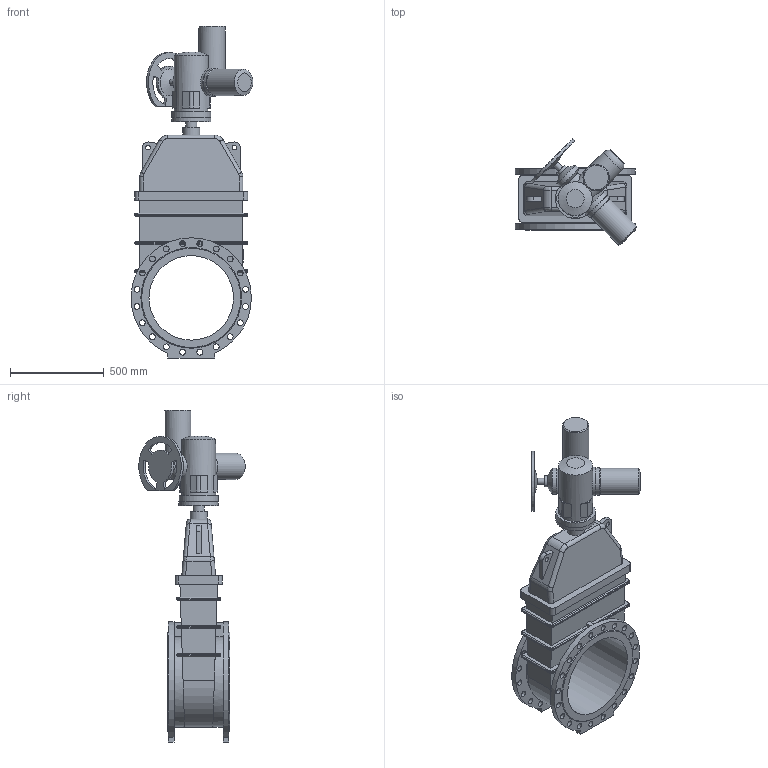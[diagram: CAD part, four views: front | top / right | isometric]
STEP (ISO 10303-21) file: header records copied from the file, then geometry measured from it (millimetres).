
FILE_DESCRIPTION(('STEP AP203'), '1');
FILE_NAME('青溻桄赅 47GVA DN450 PN16+MT903.A45', '', ('UNSPECIFIED'), ('UNSPECIFIED'), 'ASCON STEP Converter 1.6', 'ASCON Math Kernel', '');
FILE_SCHEMA(('CONFIG_CONTROL_DESIGN'));
Length unit declared in the file: millimetre
Bounding box: 647.76 x 565.84 x 1767 mm (x, y, z)
Volume: 108263435.5 mm3; surface area: 3825481.8 mm2
Topology: 2 solids, 3 shells, 376 faces, 934 edges, 593 vertices
Faces by surface type: cylinder 171, plane 157, bspline 32, cone 15, torus 1
Full cylindrical faces by diameter (mm): 14 x4, 17 x4, 17.294 x4, 22 x4, 25 x2, 31 x40, 32 x1, 40 x1, 60 x2, 90 x1, 100 x1, 130 x2, 140 x4, 147 x1, 151 x1, 180 x1, 210 x2, 450 x1
Entity records: 17626 total; most frequent: CARTESIAN_POINT 5985, DIRECTION 1725, ORIENTED_EDGE 1678, EDGE_CURVE 839, AXIS2_PLACEMENT_3D 665, EDGE_LOOP 596, VERTEX_POINT 589, FACE_BOUND 429
